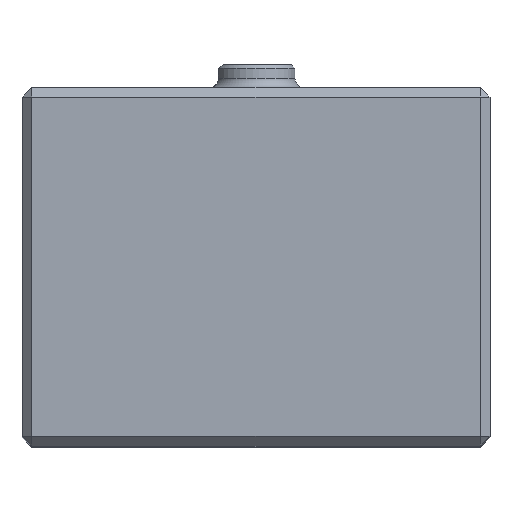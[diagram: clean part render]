
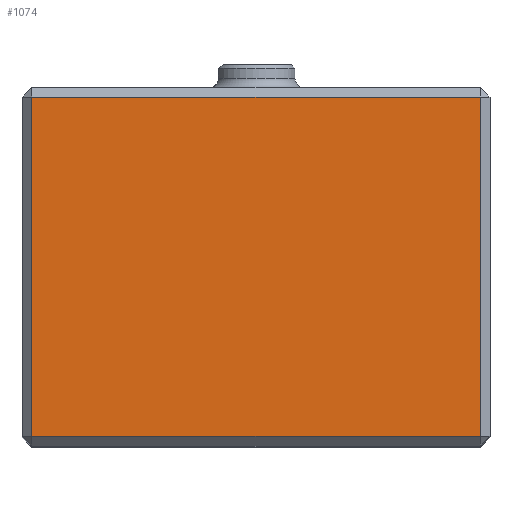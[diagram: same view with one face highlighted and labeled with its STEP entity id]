
A CAD part, top view. The second image highlights one B-rep face of the part: STEP entity #1074.
In plain terms, the highlighted planar face has unit normal (0, 0, 1).
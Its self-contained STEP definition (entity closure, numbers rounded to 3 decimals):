
#17 = VERTEX_POINT ( 'NONE', #1335 ) ;
#129 = CARTESIAN_POINT ( 'NONE',  ( 11.5, 18.4, 20. ) ) ;
#183 = ORIENTED_EDGE ( 'NONE', *, *, #625, .T. ) ;
#317 = CARTESIAN_POINT ( 'NONE',  ( -11.5, 17.9, 20. ) ) ;
#332 = CARTESIAN_POINT ( 'NONE',  ( 12., 0.5, 20. ) ) ;
#392 = FACE_OUTER_BOUND ( 'NONE', #592, .T. ) ;
#478 = AXIS2_PLACEMENT_3D ( 'NONE', #1483, #1814, #877 ) ;
#493 = VERTEX_POINT ( 'NONE', #873 ) ;
#557 = PLANE ( 'NONE',  #478 ) ;
#592 = EDGE_LOOP ( 'NONE', ( #183, #1426, #727, #1929 ) ) ;
#624 = DIRECTION ( 'NONE',  ( 0., 1., 0. ) ) ;
#625 = EDGE_CURVE ( 'NONE', #493, #17, #1206, .T. ) ;
#727 = ORIENTED_EDGE ( 'NONE', *, *, #786, .T. ) ;
#784 = CARTESIAN_POINT ( 'NONE',  ( -11.5, 0.5, 20. ) ) ;
#786 = EDGE_CURVE ( 'NONE', #1498, #1900, #1926, .T. ) ;
#805 = DIRECTION ( 'NONE',  ( 0., -1., 0. ) ) ;
#873 = CARTESIAN_POINT ( 'NONE',  ( 11.5, 0.5, 20. ) ) ;
#877 = DIRECTION ( 'NONE',  ( -1., 0., 0. ) ) ;
#977 = LINE ( 'NONE', #1915, #1409 ) ;
#1074 = ADVANCED_FACE ( 'NONE', ( #392 ), #557, .F. ) ;
#1136 = DIRECTION ( 'NONE',  ( 1., 0., 0. ) ) ;
#1206 = LINE ( 'NONE', #129, #1577 ) ;
#1335 = CARTESIAN_POINT ( 'NONE',  ( 11.5, 17.9, 20. ) ) ;
#1368 = DIRECTION ( 'NONE',  ( -1., 0., 0. ) ) ;
#1381 = EDGE_CURVE ( 'NONE', #1900, #493, #1528, .T. ) ;
#1409 = VECTOR ( 'NONE', #1368, 1000. ) ;
#1426 = ORIENTED_EDGE ( 'NONE', *, *, #1979, .T. ) ;
#1483 = CARTESIAN_POINT ( 'NONE',  ( -12., 18.4, 20. ) ) ;
#1498 = VERTEX_POINT ( 'NONE', #317 ) ;
#1515 = VECTOR ( 'NONE', #805, 1000. ) ;
#1528 = LINE ( 'NONE', #332, #1961 ) ;
#1577 = VECTOR ( 'NONE', #624, 1000. ) ;
#1580 = CARTESIAN_POINT ( 'NONE',  ( -11.5, 18.4, 20. ) ) ;
#1814 = DIRECTION ( 'NONE',  ( 0., 0., -1. ) ) ;
#1900 = VERTEX_POINT ( 'NONE', #784 ) ;
#1915 = CARTESIAN_POINT ( 'NONE',  ( -12., 17.9, 20. ) ) ;
#1926 = LINE ( 'NONE', #1580, #1515 ) ;
#1929 = ORIENTED_EDGE ( 'NONE', *, *, #1381, .T. ) ;
#1961 = VECTOR ( 'NONE', #1136, 1000. ) ;
#1979 = EDGE_CURVE ( 'NONE', #17, #1498, #977, .T. ) ;
